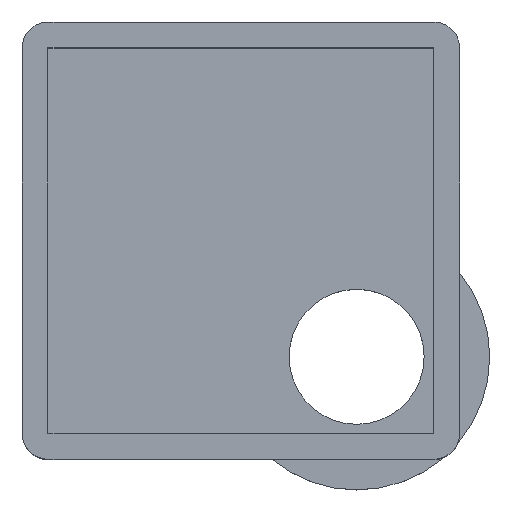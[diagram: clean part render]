
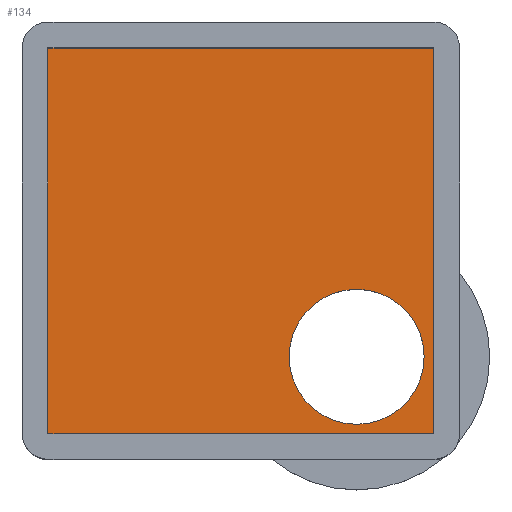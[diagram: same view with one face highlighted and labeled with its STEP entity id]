
A CAD part, top view. The second image highlights one B-rep face of the part: STEP entity #134.
In plain terms, the highlighted planar face has unit normal (0, 0, 1).
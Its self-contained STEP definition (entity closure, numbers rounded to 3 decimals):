
#134=ADVANCED_FACE('',(#250,#251),#252,.T.);
#250=FACE_BOUND('',#356,.T.);
#251=FACE_OUTER_BOUND('',#357,.T.);
#252=PLANE('',#358);
#356=EDGE_LOOP('',(#513));
#357=EDGE_LOOP('',(#514,#515,#516,#517));
#358=AXIS2_PLACEMENT_3D('',#518,#519,#520);
#513=ORIENTED_EDGE('',*,*,#654,.F.);
#514=ORIENTED_EDGE('',*,*,#657,.T.);
#515=ORIENTED_EDGE('',*,*,#620,.T.);
#516=ORIENTED_EDGE('',*,*,#633,.T.);
#517=ORIENTED_EDGE('',*,*,#674,.T.);
#518=CARTESIAN_POINT('',(-9.0,-14.556,2.0));
#519=DIRECTION('',(0.0,0.0,1.0));
#520=DIRECTION('',(1.0,0.0,0.0));
#620=EDGE_CURVE('',#704,#705,#706,.T.);
#633=EDGE_CURVE('',#705,#727,#728,.T.);
#654=EDGE_CURVE('',#757,#757,#758,.T.);
#657=EDGE_CURVE('',#762,#704,#763,.T.);
#674=EDGE_CURVE('',#727,#762,#787,.T.);
#704=VERTEX_POINT('',#820);
#705=VERTEX_POINT('',#821);
#706=LINE('',#822,#823);
#727=VERTEX_POINT('',#851);
#728=LINE('',#852,#853);
#757=VERTEX_POINT('',#888);
#758=CIRCLE('',#889,5.25);
#762=VERTEX_POINT('',#893);
#763=LINE('',#894,#895);
#787=LINE('',#928,#929);
#820=CARTESIAN_POINT('',(-7.0,-12.556,2.0));
#821=CARTESIAN_POINT('',(23.0,-12.556,2.0));
#822=CARTESIAN_POINT('',(-9.0,-12.556,2.0));
#823=VECTOR('',#968,1.0);
#851=CARTESIAN_POINT('',(23.0,17.444,2.0));
#852=CARTESIAN_POINT('',(23.0,-14.556,2.0));
#853=VECTOR('',#982,1.0);
#888=CARTESIAN_POINT('',(22.25,-6.556,2.));
#889=AXIS2_PLACEMENT_3D('',#1010,#1011,#1012);
#893=CARTESIAN_POINT('',(-7.0,17.444,2.0));
#894=CARTESIAN_POINT('',(-7.0,19.444,2.0));
#895=VECTOR('',#1016,1.0);
#928=CARTESIAN_POINT('',(25.0,17.444,2.0));
#929=VECTOR('',#1035,1.0);
#968=DIRECTION('',(1.0,0.0,0.0));
#982=DIRECTION('',(0.0,1.0,0.0));
#1010=CARTESIAN_POINT('',(17.0,-6.556,2.));
#1011=DIRECTION('',(0.0,0.0,1.0));
#1012=DIRECTION('',(1.0,0.0,0.0));
#1016=DIRECTION('',(0.0,-1.0,0.0));
#1035=DIRECTION('',(-1.0,0.0,0.0));
